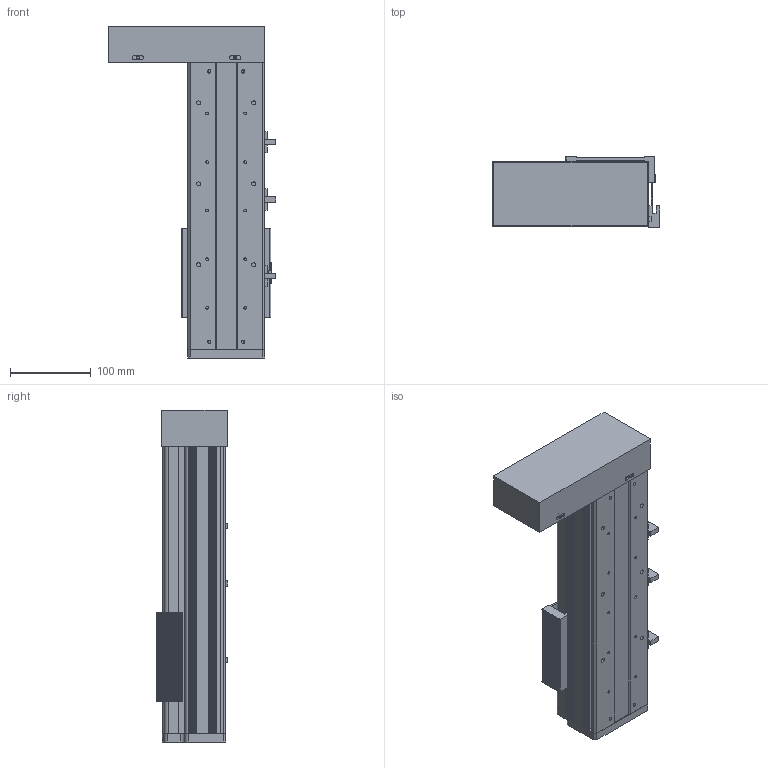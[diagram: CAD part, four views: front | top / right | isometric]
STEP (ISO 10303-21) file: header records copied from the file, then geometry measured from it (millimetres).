
FILE_DESCRIPTION (( 'STEP AP214' ), '1' );
FILE_NAME ('CF95B-C-150-FWL.STEP', '2020-01-15T08:35:35', ( '微软用户' ), ( '微软中国' ), 'SwSTEP 2.0', 'SolidWorks 2016', '' );
FILE_SCHEMA (( 'AUTOMOTIVE_DESIGN' ));
Length unit declared in the file: millimetre
Products named in the file (20): CF95B蹟譫釱; EGH-15-CABZnew; EGR15-150; CF95B菁釱-150; 嫖萇羲壽; CF95B-C-150-FWL; 75-86-95癹弇羲壽覜茼え; 滅誘欶 殏俔; 酘殏萇儂啣; CF95B耜啣; hexagon socket head cap screws gb_GB_FASTENER_SCREWS_HSHCS M5X25-N; curved single coil spring lock washers gb_GB_FASTENER_WASHER_CSLW 5; hexagon socket head cap screws gb_GB_FASTENER_SCREWS_HSHCS M4X10-N; hexagon socket head cap screws gb_GB_FASTENER_SCREWS_HSHCS M4X25-N; plain washers--product grade c gb_GB_FASTENER_WASHER_SMWC 4; curved single coil spring lock washers gb_GB_FASTENER_WASHER_CSLW 4; 盓傅釱; CF95B嘐隅釱; CF95B裔啣-150; CF95B賑雄啣
Assembly tree (48 placements, depth 2):
  CF95B-C-150-FWL
    CF95B菁釱-150
    EGR15-150  x2
    EGH-15-CABZnew  x2
    CF95B蹟譫釱
    CF95B賑雄啣
    CF95B裔啣-150
    CF95B嘐隅釱
    盓傅釱
    curved single coil spring lock washers gb_GB_FASTENER_WASHER_CSLW 4  x8
    plain washers--product grade c gb_GB_FASTENER_WASHER_SMWC 4  x4
    hexagon socket head cap screws gb_GB_FASTENER_SCREWS_HSHCS M4X25-N  x3
    hexagon socket head cap screws gb_GB_FASTENER_SCREWS_HSHCS M4X10-N  x4
    curved single coil spring lock washers gb_GB_FASTENER_WASHER_CSLW 5  x6
    hexagon socket head cap screws gb_GB_FASTENER_SCREWS_HSHCS M5X25-N  x6
    CF95B耜啣
    酘殏萇儂啣
    滅誘欶 殏俔
    75-86-95癹弇羲壽覜茼え
    嫖萇羲壽  x3
Bounding box: 206.6 x 88.05 x 410 mm (x, y, z)
Volume: 1546244.4 mm3; surface area: 622651.7 mm2
Topology: 46 solids, 72 shells, 4461 faces, 15852 edges, 10775 vertices
Faces by surface type: plane 2195, bspline 1174, cylinder 784, cone 170, torus 90, sphere 48
Entity records: 127807 total; most frequent: CARTESIAN_POINT 41418, ORIENTED_EDGE 14734, DIRECTION 11560, EDGE_CURVE 8491, VERTEX_POINT 5800, LINE 5000, VECTOR 5000, AXIS2_PLACEMENT_3D 3280
